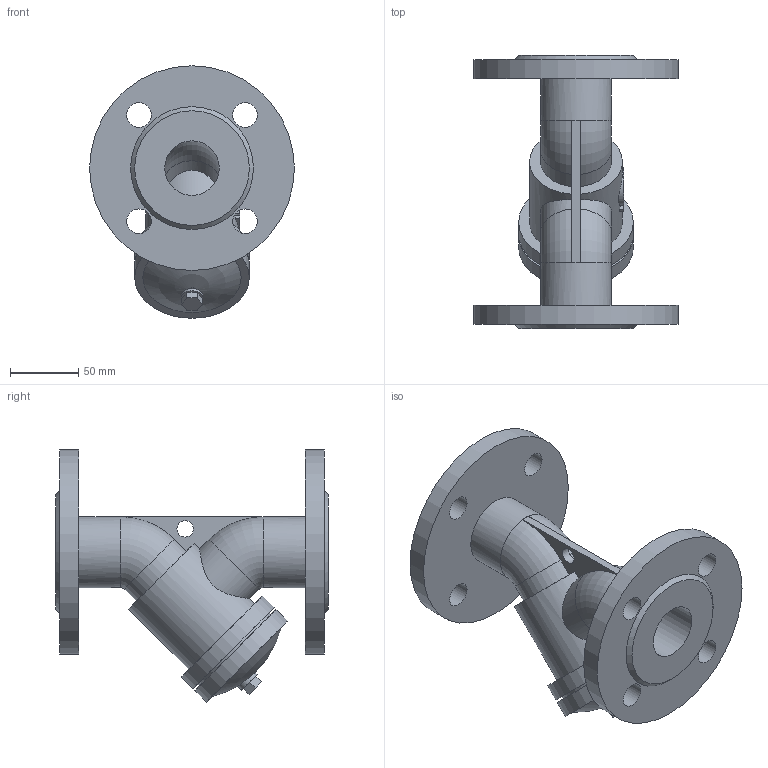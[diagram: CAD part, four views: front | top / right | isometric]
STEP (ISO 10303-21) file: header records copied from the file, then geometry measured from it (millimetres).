
FILE_DESCRIPTION(('STEP AP203'), '1');
FILE_NAME('Ôèëüòð ñåò÷àòûé ôëàíöåâûé 021Y DN40 PN10_PN16', '', ('UNSPECIFIED'), ('UNSPECIFIED'), 'ASCON STEP Converter 1.6', 'ASCON Math Kernel', '');
FILE_SCHEMA(('CONFIG_CONTROL_DESIGN'));
Length unit declared in the file: millimetre
Bounding box: 150 x 200 x 185 mm (x, y, z)
Volume: 973657 mm3; surface area: 158311.1 mm2
Topology: 1 solids, 1 shells, 76 faces, 170 edges, 109 vertices
Faces by surface type: plane 37, cylinder 32, torus 4, cone 2, sphere 1
Full cylindrical faces by diameter (mm): 12 x1, 16 x1, 18 x8, 40 x4, 52 x2, 68 x1, 74 x1, 84 x2, 150 x2
Entity records: 3736 total; most frequent: CARTESIAN_POINT 1436, DIRECTION 351, ORIENTED_EDGE 282, AXIS2_PLACEMENT_3D 146, EDGE_CURVE 141, EDGE_LOOP 135, VERTEX_POINT 108, FACE_BOUND 86
